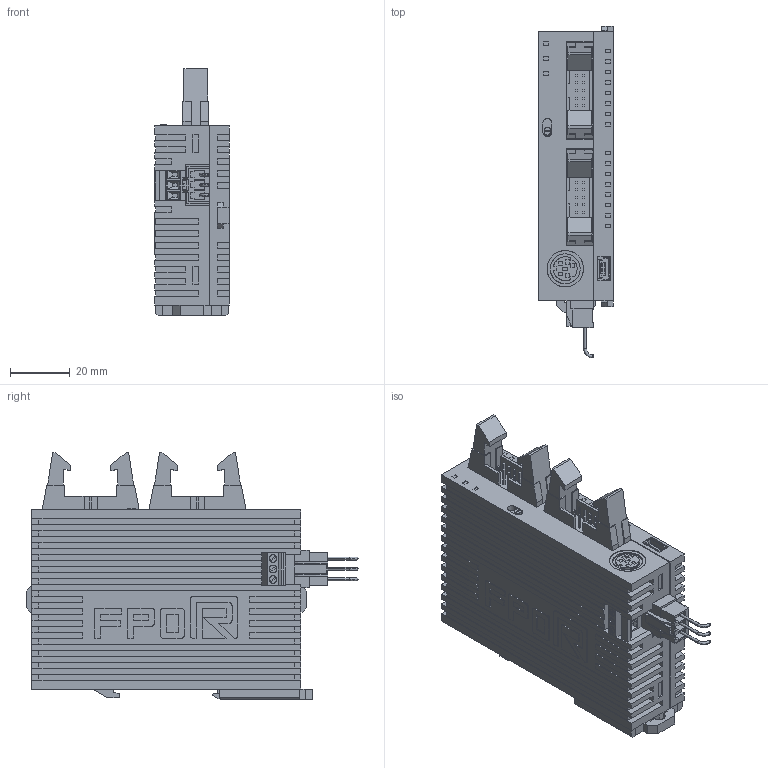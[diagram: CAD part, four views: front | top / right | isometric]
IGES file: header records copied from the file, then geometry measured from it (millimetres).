
Start section: SolidWorks IGES file using analytic representation for surfaces
Global section: file name: C:\catalog\FP0R_catalog\afp0rc16ct\afp0rc16ct.IGS; native system: SolidWorks 2010; preprocessor: SolidWorks 2010; author: ek1676; date: 130628.130941; units: millimetre
Bounding box: 25 x 111.2 x 82.7 mm (x, y, z)
Surface area: 30833.7 mm2 (no closed solid volume)
Topology: 0 solids, 0 shells, 1051 faces, 6786 edges, 6786 vertices
Faces by surface type: bspline 984, revolution 67
